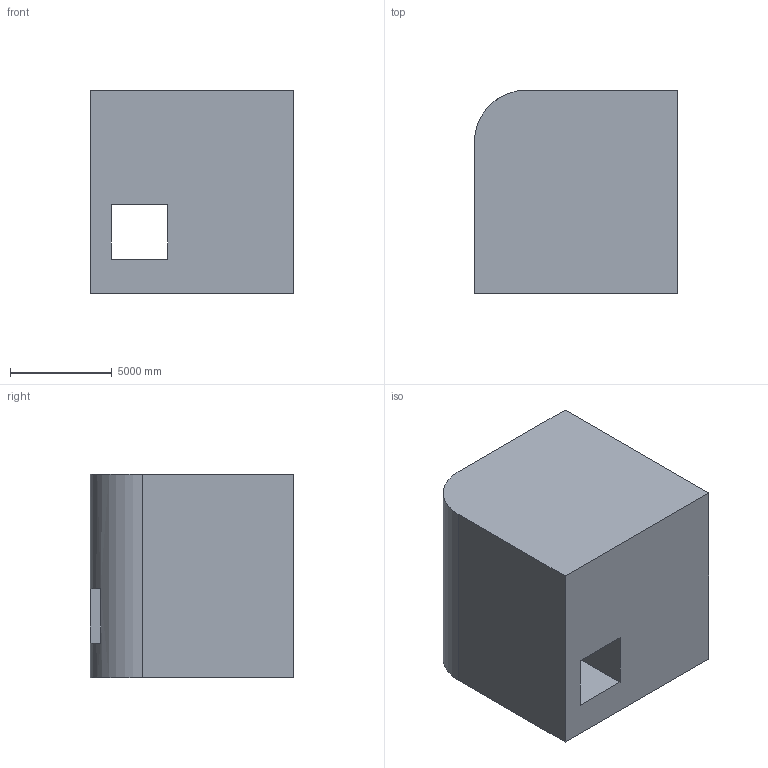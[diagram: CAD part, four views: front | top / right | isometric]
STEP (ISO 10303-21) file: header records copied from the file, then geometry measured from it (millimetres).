
FILE_DESCRIPTION (( 'STEP AP203' ), '1' );
FILE_NAME ('1276.STEP', '2022-08-18T13:31:15', ( 'user' ), ( '' ), 'SwSTEP 2.0', 'SolidWorks 2021', '' );
FILE_SCHEMA (( 'CONFIG_CONTROL_DESIGN' ));
Length unit declared in the file: centimetre
Products named in the file (1): 1276
Bounding box: 10000 x 10000 x 10000 mm (x, y, z)
Volume: 897687939121 mm3; surface area: 718610405.9 mm2
Topology: 1 solids, 1 shells, 15 faces, 39 edges, 26 vertices
Faces by surface type: plane 14, cylinder 1
Entity records: 538 total; most frequent: CARTESIAN_POINT 81, ORIENTED_EDGE 78, DIRECTION 75, EDGE_CURVE 39, VECTOR 35, LINE 35, VERTEX_POINT 26, AXIS2_PLACEMENT_3D 20
